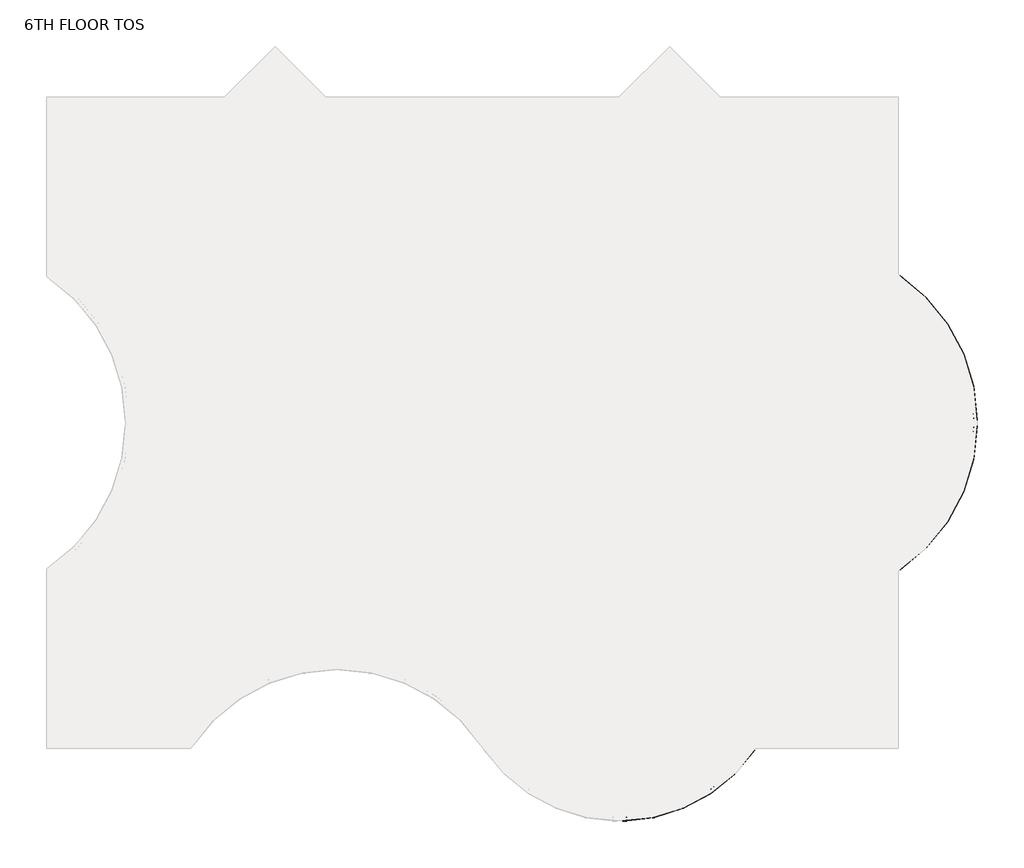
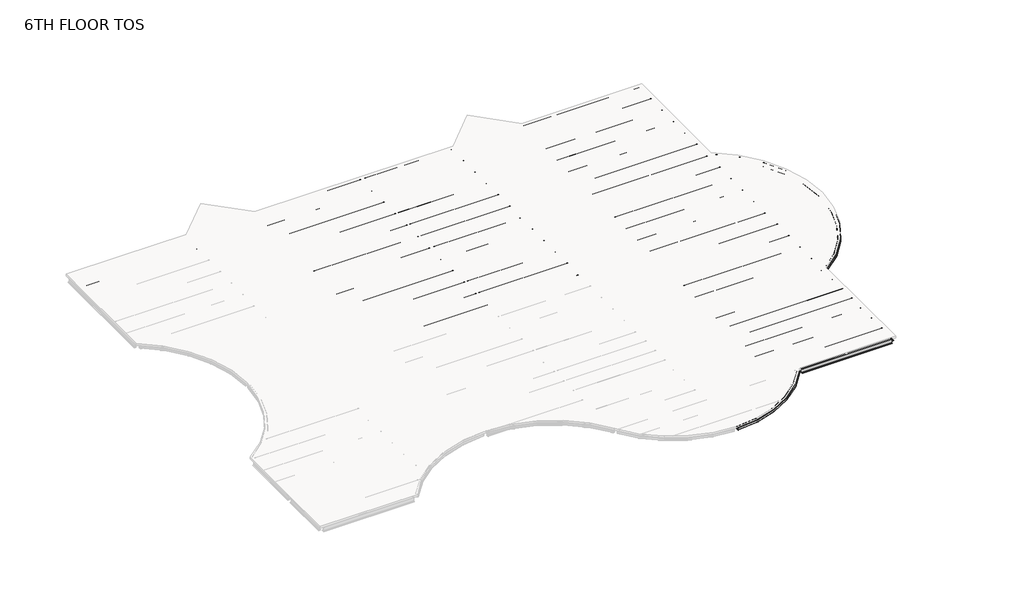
# One storey, part 2 of 2: 110 beams.
"""IFC4 building model written with IfcOpenShell, lengths in millimetres."""

from ifc_helpers import new_model, si_unit, origin, place, context, project, spatial, transform, mapped, element, save
from components import m_hss_square_hss203_2x203_2x9_5_28e91a4e, m_hss_square_hss203_2x203_2x9_5_f31329aa, m_hss_square_hss203_2x203_2x9_5_63507dff, ub_universal_beams_ub254x102x28_7812688d, ub_universal_beams_ub254x102x28_4a38c177, ub_universal_beams_ub305x165x40_c4d0385b, ub_universal_beams_ub305x165x40_19965e16, ub_universal_beams_ub305x165x40_d3abc31d, ub_universal_beams_ub305x165x40_0c73730f, ub_universal_beams_ub305x165x40_2a963f0c, ub_universal_beams_ub305x165x40_9ce7f2ee, ub_universal_beams_ub305x165x40_d184adfd, ub_universal_beams_ub305x165x40_bc7dc938, ub_universal_beams_ub305x165x40_b4233d25, ub_universal_beams_ub356x171x51_c708c058, ub_universal_beams_ub356x171x51_ef72dcdd, ub_universal_beams_ub356x171x51_10b3c54f, ub_universal_beams_ub356x171x51_4c9fd821, ub_universal_beams_ub356x171x51_d1a87c3c, ub_universal_beams_ub356x171x51_fa75724b, ub_universal_beams_ub356x171x51_68db896e, ub_universal_beams_ub356x171x51_c634c4a6, ub_universal_beams_ub356x171x51_995f1560, ub_universal_beams_ub356x171x51_dfc36663, ub_universal_beams_ub356x171x51_11d6b780, ub_universal_beams_ub356x171x51_76b2d20b, ub_universal_beams_ub356x171x51_145ecd4b, ub_universal_beams_ub356x171x51_c7dff8d2, ub_universal_beams_ub356x171x51_8a345439, ub_universal_beams_ub356x171x51_6da510e9, ub_universal_beams_ub356x171x51_e97f8d2e, ub_universal_beams_ub356x171x51_a38b99de, ub_universal_beams_ub356x171x51_d8f4cdde, ub_universal_beams_ub356x171x51_475301e6, ub_universal_beams_ub356x171x51_c03c70fb, ub_universal_beams_ub356x171x51_741bae58

model = new_model("IFC4")

# Units and contexts
model_context = context("Model", 3, world=origin())
ifc_project = project(units=[si_unit("LENGTHUNIT", "METRE", prefix="MILLI")], contexts=[model_context])

# Site, building, storey
site = spatial("IfcSite", under=ifc_project)
building = spatial("IfcBuilding", under=site)
storey = spatial("IfcBuildingStorey", under=building, Name="6TH FLOOR TOS", Elevation=27279.6)

# Beams
placement = place(None, origin())
m_hss_square_hss203_2x203_2x9_5_shape = m_hss_square_hss203_2x203_2x9_5_28e91a4e(model_context)
element("IfcBeam", 1, ObjectType="M_HSS Square : HSS203.2X203.2X9.5", at=placement, inside=storey, context=model_context, shape_type="MappedRepresentation", body=[
    mapped(m_hss_square_hss203_2x203_2x9_5_shape, transform((44027.575, 24539.575, 27178.1), x_axis=(0.8332810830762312, -0.5528495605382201, 0.0), y_axis=(0.5528495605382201, 0.8332810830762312, 0.0), z_axis=(0.0, 0.0, 1.0))),
])
m_hss_square_hss203_2x203_2x9_5_2_shape = m_hss_square_hss203_2x203_2x9_5_f31329aa(model_context)
element("IfcBeam", 2, ObjectType="M_HSS Square : HSS203.2X203.2X9.5", at=placement, inside=storey, context=model_context, shape_type="MappedRepresentation", body=[
    mapped(m_hss_square_hss203_2x203_2x9_5_2_shape, transform((44027.575, 9299.575, 27178.1), x_axis=(0.8332810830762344, 0.5528495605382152, 0.0), y_axis=(-0.5528495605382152, 0.8332810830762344, 0.0), z_axis=(0.0, 0.0, 1.0))),
])
m_hss_square_hss203_2x203_2x9_5_3_shape = m_hss_square_hss203_2x203_2x9_5_63507dff(model_context)
element("IfcBeam", 3, ObjectType="M_HSS Square : HSS203.2X203.2X9.5", at=placement, inside=storey, context=model_context, shape_type="MappedRepresentation", body=[
    mapped(m_hss_square_hss203_2x203_2x9_5_3_shape, transform((36716.575, 155.575, 27178.1), x_axis=(-0.5530174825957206, -0.8331696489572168, 0.0), y_axis=(0.8331696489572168, -0.5530174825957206, 0.0), z_axis=(0.0, 0.0, 1.0))),
])
ub_universal_beams_ub254x102x28_shape = ub_universal_beams_ub254x102x28_7812688d(model_context)
element("IfcBeam", 4, ObjectType="UB-Universal Beams : UB254x102x28", at=placement, inside=storey, context=model_context, shape_type="MappedRepresentation", body=[
    mapped(ub_universal_beams_ub254x102x28_shape, transform((10592.575, 34976.575, 27149.4), x_axis=(0.7071067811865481, 0.7071067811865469, 0.0), y_axis=(-0.7071067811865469, 0.7071067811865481, 0.0), z_axis=(0.0, 0.0, 1.0))),
])
element("IfcBeam", 5, ObjectType="UB-Universal Beams : UB254x102x28", at=placement, inside=storey, context=model_context, shape_type="MappedRepresentation", body=[
    mapped(ub_universal_beams_ub254x102x28_shape, transform((31004.575, 34976.575, 27149.4), x_axis=(0.7071067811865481, 0.7071067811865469, 0.0), y_axis=(-0.7071067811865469, 0.7071067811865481, 0.0), z_axis=(0.0, 0.0, 1.0))),
])
ub_universal_beams_ub254x102x28_2_shape = ub_universal_beams_ub254x102x28_4a38c177(model_context)
element("IfcBeam", 6, ObjectType="UB-Universal Beams : UB254x102x28", at=placement, inside=storey, context=model_context, shape_type="MappedRepresentation", body=[
    mapped(ub_universal_beams_ub254x102x28_2_shape, transform((13178.575, 34976.575, 27149.4), x_axis=(0.707106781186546, -0.707106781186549, 0.0), y_axis=(0.707106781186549, 0.707106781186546, 0.0), z_axis=(0.0, 0.0, 1.0))),
])
element("IfcBeam", 7, ObjectType="UB-Universal Beams : UB254x102x28", at=placement, inside=storey, context=model_context, shape_type="MappedRepresentation", body=[
    mapped(ub_universal_beams_ub254x102x28_2_shape, transform((33590.575, 34976.575, 27149.4), x_axis=(0.7071067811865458, -0.7071067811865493, 0.0), y_axis=(0.7071067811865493, 0.7071067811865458, 0.0), z_axis=(0.0, 0.0, 1.0))),
])
ub_universal_beams_ub305x165x40_shape = ub_universal_beams_ub305x165x40_c4d0385b(model_context)
element("IfcBeam", 8, ObjectType="UB-Universal Beams : UB305x165x40", at=placement, inside=storey, context=model_context, shape_type="MappedRepresentation", body=[
    mapped(ub_universal_beams_ub305x165x40_shape, transform((4727.575, 32159.575, 27127.9), x_axis=(1.0, 0.0, 0.0), y_axis=(0.0, 1.0, 0.0), z_axis=(0.0, 0.0, 1.0))),
])
element("IfcBeam", 9, ObjectType="UB-Universal Beams : UB305x165x40", at=placement, inside=storey, context=model_context, shape_type="MappedRepresentation", body=[
    mapped(ub_universal_beams_ub305x165x40_shape, transform((39455.575, 32159.575, 27127.9), x_axis=(1.0, 0.0, 0.0), y_axis=(0.0, 1.0, 0.0), z_axis=(0.0, 0.0, 1.0))),
])
element("IfcBeam", 10, ObjectType="UB-Universal Beams : UB305x165x40", at=placement, inside=storey, context=model_context, shape_type="MappedRepresentation", body=[
    mapped(ub_universal_beams_ub305x165x40_shape, transform((39455.575, 30635.575, 27127.9), x_axis=(1.0, 0.0, 0.0), y_axis=(0.0, 1.0, 0.0), z_axis=(0.0, 0.0, 1.0))),
])
element("IfcBeam", 11, ObjectType="UB-Universal Beams : UB305x165x40", at=placement, inside=storey, context=model_context, shape_type="MappedRepresentation", body=[
    mapped(ub_universal_beams_ub305x165x40_shape, transform((39455.575, 29111.575, 27127.9), x_axis=(1.0, 0.0, 0.0), y_axis=(0.0, 1.0, 0.0), z_axis=(0.0, 0.0, 1.0))),
])
element("IfcBeam", 12, ObjectType="UB-Universal Beams : UB305x165x40", at=placement, inside=storey, context=model_context, shape_type="MappedRepresentation", body=[
    mapped(ub_universal_beams_ub305x165x40_shape, transform((39455.575, 27587.575, 27127.9), x_axis=(1.0, 0.0, 0.0), y_axis=(0.0, 1.0, 0.0), z_axis=(0.0, 0.0, 1.0))),
])
element("IfcBeam", 13, ObjectType="UB-Universal Beams : UB305x165x40", at=placement, inside=storey, context=model_context, shape_type="MappedRepresentation", body=[
    mapped(ub_universal_beams_ub305x165x40_shape, transform((39455.575, 26063.575, 27127.9), x_axis=(1.0, 0.0, 0.0), y_axis=(0.0, 1.0, 0.0), z_axis=(0.0, 0.0, 1.0))),
])
element("IfcBeam", 14, ObjectType="UB-Universal Beams : UB305x165x40", at=placement, inside=storey, context=model_context, shape_type="MappedRepresentation", body=[
    mapped(ub_universal_beams_ub305x165x40_shape, transform((39455.575, 23015.575, 27127.9), x_axis=(1.0, 0.0, 0.0), y_axis=(0.0, 1.0, 0.0), z_axis=(0.0, 0.0, 1.0))),
])
element("IfcBeam", 15, ObjectType="UB-Universal Beams : UB305x165x40", at=placement, inside=storey, context=model_context, shape_type="MappedRepresentation", body=[
    mapped(ub_universal_beams_ub305x165x40_shape, transform((39455.575, 21491.575, 27127.9), x_axis=(1.0, 0.0, 0.0), y_axis=(0.0, 1.0, 0.0), z_axis=(0.0, 0.0, 1.0))),
])
element("IfcBeam", 16, ObjectType="UB-Universal Beams : UB305x165x40", at=placement, inside=storey, context=model_context, shape_type="MappedRepresentation", body=[
    mapped(ub_universal_beams_ub305x165x40_shape, transform((39455.575, 19967.575, 27127.9), x_axis=(1.0, 0.0, 0.0), y_axis=(0.0, 1.0, 0.0), z_axis=(0.0, 0.0, 1.0))),
])
element("IfcBeam", 17, ObjectType="UB-Universal Beams : UB305x165x40", at=placement, inside=storey, context=model_context, shape_type="MappedRepresentation", body=[
    mapped(ub_universal_beams_ub305x165x40_shape, transform((39455.575, 18443.575, 27127.9), x_axis=(1.0, 0.0, 0.0), y_axis=(0.0, 1.0, 0.0), z_axis=(0.0, 0.0, 1.0))),
])
element("IfcBeam", 18, ObjectType="UB-Universal Beams : UB305x165x40", at=placement, inside=storey, context=model_context, shape_type="MappedRepresentation", body=[
    mapped(ub_universal_beams_ub305x165x40_shape, transform((39455.575, 15395.575, 27127.9), x_axis=(1.0, 0.0, 0.0), y_axis=(0.0, 1.0, 0.0), z_axis=(0.0, 0.0, 1.0))),
])
element("IfcBeam", 19, ObjectType="UB-Universal Beams : UB305x165x40", at=placement, inside=storey, context=model_context, shape_type="MappedRepresentation", body=[
    mapped(ub_universal_beams_ub305x165x40_shape, transform((39455.575, 13871.575, 27127.9), x_axis=(1.0, 0.0, 0.0), y_axis=(0.0, 1.0, 0.0), z_axis=(0.0, 0.0, 1.0))),
])
element("IfcBeam", 20, ObjectType="UB-Universal Beams : UB305x165x40", at=placement, inside=storey, context=model_context, shape_type="MappedRepresentation", body=[
    mapped(ub_universal_beams_ub305x165x40_shape, transform((39455.575, 12347.575, 27127.9), x_axis=(1.0, 0.0, 0.0), y_axis=(0.0, 1.0, 0.0), z_axis=(0.0, 0.0, 1.0))),
])
element("IfcBeam", 21, ObjectType="UB-Universal Beams : UB305x165x40", at=placement, inside=storey, context=model_context, shape_type="MappedRepresentation", body=[
    mapped(ub_universal_beams_ub305x165x40_shape, transform((39455.575, 10823.575, 27127.9), x_axis=(1.0, 0.0, 0.0), y_axis=(0.0, 1.0, 0.0), z_axis=(0.0, 0.0, 1.0))),
])
element("IfcBeam", 22, ObjectType="UB-Universal Beams : UB305x165x40", at=placement, inside=storey, context=model_context, shape_type="MappedRepresentation", body=[
    mapped(ub_universal_beams_ub305x165x40_shape, transform((39455.575, 5508.325, 27127.9), x_axis=(-1.0, 0.0, 0.0), y_axis=(0.0, -1.0, 0.0), z_axis=(0.0, 0.0, 1.0))),
])
element("IfcBeam", 23, ObjectType="UB-Universal Beams : UB305x165x40", at=placement, inside=storey, context=model_context, shape_type="MappedRepresentation", body=[
    mapped(ub_universal_beams_ub305x165x40_shape, transform((39455.575, 6772.075, 27127.9), x_axis=(-1.0, 0.0, 0.0), y_axis=(0.0, -1.0, 0.0), z_axis=(0.0, 0.0, 1.0))),
])
element("IfcBeam", 24, ObjectType="UB-Universal Beams : UB305x165x40", at=placement, inside=storey, context=model_context, shape_type="MappedRepresentation", body=[
    mapped(ub_universal_beams_ub305x165x40_shape, transform((39455.575, 8035.825, 27127.9), x_axis=(-1.0, 0.0, 0.0), y_axis=(0.0, -1.0, 0.0), z_axis=(0.0, 0.0, 1.0))),
])
element("IfcBeam", 25, ObjectType="UB-Universal Beams : UB305x165x40", at=placement, inside=storey, context=model_context, shape_type="MappedRepresentation", body=[
    mapped(ub_universal_beams_ub305x165x40_shape, transform((39455.575, 1518.575, 27127.9), x_axis=(-1.0, 0.0, 0.0), y_axis=(0.0, -1.0, 0.0), z_axis=(0.0, 0.0, 1.0))),
])
element("IfcBeam", 26, ObjectType="UB-Universal Beams : UB305x165x40", at=placement, inside=storey, context=model_context, shape_type="MappedRepresentation", body=[
    mapped(ub_universal_beams_ub305x165x40_shape, transform((39455.575, 2881.575, 27127.9), x_axis=(-1.0, 0.0, 0.0), y_axis=(0.0, -1.0, 0.0), z_axis=(0.0, 0.0, 1.0))),
])
ub_universal_beams_ub305x165x40_2_shape = ub_universal_beams_ub305x165x40_19965e16(model_context)
element("IfcBeam", 27, ObjectType="UB-Universal Beams : UB305x165x40", at=placement, inside=storey, context=model_context, shape_type="MappedRepresentation", body=[
    mapped(ub_universal_beams_ub305x165x40_2_shape, transform((11885.575, 34803.325, 27127.9), x_axis=(1.0, 0.0, 0.0), y_axis=(0.0, 1.0, 0.0), z_axis=(0.0, 0.0, 1.0))),
])
element("IfcBeam", 28, ObjectType="UB-Universal Beams : UB305x165x40", at=placement, inside=storey, context=model_context, shape_type="MappedRepresentation", body=[
    mapped(ub_universal_beams_ub305x165x40_2_shape, transform((32297.575, 34803.325, 27127.9), x_axis=(1.0, 0.0, 0.0), y_axis=(0.0, 1.0, 0.0), z_axis=(0.0, 0.0, 1.0))),
])
ub_universal_beams_ub305x165x40_3_shape = ub_universal_beams_ub305x165x40_d3abc31d(model_context)
element("IfcBeam", 29, ObjectType="UB-Universal Beams : UB305x165x40", at=placement, inside=storey, context=model_context, shape_type="MappedRepresentation", body=[
    mapped(ub_universal_beams_ub305x165x40_3_shape, transform((11885.575, 33337.075, 27127.9), x_axis=(1.0, 0.0, 0.0), y_axis=(0.0, 1.0, 0.0), z_axis=(0.0, 0.0, 1.0))),
])
element("IfcBeam", 30, ObjectType="UB-Universal Beams : UB305x165x40", at=placement, inside=storey, context=model_context, shape_type="MappedRepresentation", body=[
    mapped(ub_universal_beams_ub305x165x40_3_shape, transform((11885.575, 31870.825, 27127.9), x_axis=(1.0, 0.0, 0.0), y_axis=(0.0, 1.0, 0.0), z_axis=(0.0, 0.0, 1.0))),
])
element("IfcBeam", 31, ObjectType="UB-Universal Beams : UB305x165x40", at=placement, inside=storey, context=model_context, shape_type="MappedRepresentation", body=[
    mapped(ub_universal_beams_ub305x165x40_3_shape, transform((11885.575, 30404.575, 27127.9), x_axis=(1.0, 0.0, 0.0), y_axis=(0.0, 1.0, 0.0), z_axis=(0.0, 0.0, 1.0))),
])
element("IfcBeam", 32, ObjectType="UB-Universal Beams : UB305x165x40", at=placement, inside=storey, context=model_context, shape_type="MappedRepresentation", body=[
    mapped(ub_universal_beams_ub305x165x40_3_shape, transform((32297.575, 33337.075, 27127.9), x_axis=(1.0, 0.0, 0.0), y_axis=(0.0, 1.0, 0.0), z_axis=(0.0, 0.0, 1.0))),
])
element("IfcBeam", 33, ObjectType="UB-Universal Beams : UB305x165x40", at=placement, inside=storey, context=model_context, shape_type="MappedRepresentation", body=[
    mapped(ub_universal_beams_ub305x165x40_3_shape, transform((32297.575, 31870.825, 27127.9), x_axis=(1.0, 0.0, 0.0), y_axis=(0.0, 1.0, 0.0), z_axis=(0.0, 0.0, 1.0))),
])
element("IfcBeam", 34, ObjectType="UB-Universal Beams : UB305x165x40", at=placement, inside=storey, context=model_context, shape_type="MappedRepresentation", body=[
    mapped(ub_universal_beams_ub305x165x40_3_shape, transform((32297.575, 30404.575, 27127.9), x_axis=(1.0, 0.0, 0.0), y_axis=(0.0, 1.0, 0.0), z_axis=(0.0, 0.0, 1.0))),
])
element("IfcBeam", 35, ObjectType="UB-Universal Beams : UB305x165x40", at=placement, inside=storey, context=model_context, shape_type="MappedRepresentation", body=[
    mapped(ub_universal_beams_ub305x165x40_3_shape, transform((32297.575, 28938.325, 27127.9), x_axis=(1.0, 0.0, 0.0), y_axis=(0.0, 1.0, 0.0), z_axis=(0.0, 0.0, 1.0))),
])
element("IfcBeam", 36, ObjectType="UB-Universal Beams : UB305x165x40", at=placement, inside=storey, context=model_context, shape_type="MappedRepresentation", body=[
    mapped(ub_universal_beams_ub305x165x40_3_shape, transform((32297.575, 27472.075, 27127.9), x_axis=(1.0, 0.0, 0.0), y_axis=(0.0, 1.0, 0.0), z_axis=(0.0, 0.0, 1.0))),
])
element("IfcBeam", 37, ObjectType="UB-Universal Beams : UB305x165x40", at=placement, inside=storey, context=model_context, shape_type="MappedRepresentation", body=[
    mapped(ub_universal_beams_ub305x165x40_3_shape, transform((32297.575, 26005.825, 27127.9), x_axis=(1.0, 0.0, 0.0), y_axis=(0.0, 1.0, 0.0), z_axis=(0.0, 0.0, 1.0))),
])
element("IfcBeam", 38, ObjectType="UB-Universal Beams : UB305x165x40", at=placement, inside=storey, context=model_context, shape_type="MappedRepresentation", body=[
    mapped(ub_universal_beams_ub305x165x40_3_shape, transform((32297.575, 1518.575, 27127.9), x_axis=(-1.0, 0.0, 0.0), y_axis=(0.0, -1.0, 0.0), z_axis=(0.0, 0.0, 1.0))),
])
element("IfcBeam", 39, ObjectType="UB-Universal Beams : UB305x165x40", at=placement, inside=storey, context=model_context, shape_type="MappedRepresentation", body=[
    mapped(ub_universal_beams_ub305x165x40_3_shape, transform((32297.575, 2881.575, 27127.9), x_axis=(-1.0, 0.0, 0.0), y_axis=(0.0, -1.0, 0.0), z_axis=(0.0, 0.0, 1.0))),
])
element("IfcBeam", 40, ObjectType="UB-Universal Beams : UB305x165x40", at=placement, inside=storey, context=model_context, shape_type="MappedRepresentation", body=[
    mapped(ub_universal_beams_ub305x165x40_3_shape, transform((32297.575, 5508.325, 27127.9), x_axis=(-1.0, 0.0, 0.0), y_axis=(0.0, -1.0, 0.0), z_axis=(0.0, 0.0, 1.0))),
])
element("IfcBeam", 41, ObjectType="UB-Universal Beams : UB305x165x40", at=placement, inside=storey, context=model_context, shape_type="MappedRepresentation", body=[
    mapped(ub_universal_beams_ub305x165x40_3_shape, transform((32297.575, 6772.075, 27127.9), x_axis=(-1.0, 0.0, 0.0), y_axis=(0.0, -1.0, 0.0), z_axis=(0.0, 0.0, 1.0))),
])
element("IfcBeam", 42, ObjectType="UB-Universal Beams : UB305x165x40", at=placement, inside=storey, context=model_context, shape_type="MappedRepresentation", body=[
    mapped(ub_universal_beams_ub305x165x40_3_shape, transform((32297.575, 8035.825, 27127.9), x_axis=(-1.0, 0.0, 0.0), y_axis=(0.0, -1.0, 0.0), z_axis=(0.0, 0.0, 1.0))),
])
element("IfcBeam", 43, ObjectType="UB-Universal Beams : UB305x165x40", at=placement, inside=storey, context=model_context, shape_type="MappedRepresentation", body=[
    mapped(ub_universal_beams_ub305x165x40_3_shape, transform((32297.575, 15395.575, 27127.9), x_axis=(1.0, 0.0, 0.0), y_axis=(0.0, 1.0, 0.0), z_axis=(0.0, 0.0, 1.0))),
])
element("IfcBeam", 44, ObjectType="UB-Universal Beams : UB305x165x40", at=placement, inside=storey, context=model_context, shape_type="MappedRepresentation", body=[
    mapped(ub_universal_beams_ub305x165x40_3_shape, transform((32297.575, 13871.575, 27127.9), x_axis=(1.0, 0.0, 0.0), y_axis=(0.0, 1.0, 0.0), z_axis=(0.0, 0.0, 1.0))),
])
element("IfcBeam", 45, ObjectType="UB-Universal Beams : UB305x165x40", at=placement, inside=storey, context=model_context, shape_type="MappedRepresentation", body=[
    mapped(ub_universal_beams_ub305x165x40_3_shape, transform((32297.575, 12347.575, 27127.9), x_axis=(1.0, 0.0, 0.0), y_axis=(0.0, 1.0, 0.0), z_axis=(0.0, 0.0, 1.0))),
])
element("IfcBeam", 46, ObjectType="UB-Universal Beams : UB305x165x40", at=placement, inside=storey, context=model_context, shape_type="MappedRepresentation", body=[
    mapped(ub_universal_beams_ub305x165x40_3_shape, transform((32297.575, 10823.575, 27127.9), x_axis=(1.0, 0.0, 0.0), y_axis=(0.0, 1.0, 0.0), z_axis=(0.0, 0.0, 1.0))),
])
element("IfcBeam", 47, ObjectType="UB-Universal Beams : UB305x165x40", at=placement, inside=storey, context=model_context, shape_type="MappedRepresentation", body=[
    mapped(ub_universal_beams_ub305x165x40_3_shape, transform((32297.575, 23015.575, 27127.9), x_axis=(1.0, 0.0, 0.0), y_axis=(0.0, 1.0, 0.0), z_axis=(0.0, 0.0, 1.0))),
])
element("IfcBeam", 48, ObjectType="UB-Universal Beams : UB305x165x40", at=placement, inside=storey, context=model_context, shape_type="MappedRepresentation", body=[
    mapped(ub_universal_beams_ub305x165x40_3_shape, transform((32297.575, 21491.575, 27127.9), x_axis=(1.0, 0.0, 0.0), y_axis=(0.0, 1.0, 0.0), z_axis=(0.0, 0.0, 1.0))),
])
element("IfcBeam", 49, ObjectType="UB-Universal Beams : UB305x165x40", at=placement, inside=storey, context=model_context, shape_type="MappedRepresentation", body=[
    mapped(ub_universal_beams_ub305x165x40_3_shape, transform((32297.575, 19967.575, 27127.9), x_axis=(1.0, 0.0, 0.0), y_axis=(0.0, 1.0, 0.0), z_axis=(0.0, 0.0, 1.0))),
])
element("IfcBeam", 50, ObjectType="UB-Universal Beams : UB305x165x40", at=placement, inside=storey, context=model_context, shape_type="MappedRepresentation", body=[
    mapped(ub_universal_beams_ub305x165x40_3_shape, transform((32297.575, 18443.575, 27127.9), x_axis=(1.0, 0.0, 0.0), y_axis=(0.0, 1.0, 0.0), z_axis=(0.0, 0.0, 1.0))),
])
ub_universal_beams_ub305x165x40_4_shape = ub_universal_beams_ub305x165x40_0c73730f(model_context)
element("IfcBeam", 51, ObjectType="UB-Universal Beams : UB305x165x40", at=placement, inside=storey, context=model_context, shape_type="MappedRepresentation", body=[
    mapped(ub_universal_beams_ub305x165x40_4_shape, transform((18591.075, 32159.575, 27127.9), x_axis=(1.0, 0.0, 0.0), y_axis=(0.0, 1.0, 0.0), z_axis=(0.0, 0.0, 1.0))),
])
element("IfcBeam", 52, ObjectType="UB-Universal Beams : UB305x165x40", at=placement, inside=storey, context=model_context, shape_type="MappedRepresentation", body=[
    mapped(ub_universal_beams_ub305x165x40_4_shape, transform((18591.075, 30635.575, 27127.9), x_axis=(1.0, 0.0, 0.0), y_axis=(0.0, 1.0, 0.0), z_axis=(0.0, 0.0, 1.0))),
])
element("IfcBeam", 53, ObjectType="UB-Universal Beams : UB305x165x40", at=placement, inside=storey, context=model_context, shape_type="MappedRepresentation", body=[
    mapped(ub_universal_beams_ub305x165x40_4_shape, transform((18591.075, 29111.575, 27127.9), x_axis=(1.0, 0.0, 0.0), y_axis=(0.0, 1.0, 0.0), z_axis=(0.0, 0.0, 1.0))),
])
element("IfcBeam", 54, ObjectType="UB-Universal Beams : UB305x165x40", at=placement, inside=storey, context=model_context, shape_type="MappedRepresentation", body=[
    mapped(ub_universal_beams_ub305x165x40_4_shape, transform((18591.075, 27587.575, 27127.9), x_axis=(1.0, 0.0, 0.0), y_axis=(0.0, 1.0, 0.0), z_axis=(0.0, 0.0, 1.0))),
])
element("IfcBeam", 55, ObjectType="UB-Universal Beams : UB305x165x40", at=placement, inside=storey, context=model_context, shape_type="MappedRepresentation", body=[
    mapped(ub_universal_beams_ub305x165x40_4_shape, transform((18591.075, 26063.575, 27127.9), x_axis=(1.0, 0.0, 0.0), y_axis=(0.0, 1.0, 0.0), z_axis=(0.0, 0.0, 1.0))),
])
element("IfcBeam", 56, ObjectType="UB-Universal Beams : UB305x165x40", at=placement, inside=storey, context=model_context, shape_type="MappedRepresentation", body=[
    mapped(ub_universal_beams_ub305x165x40_4_shape, transform((18591.075, 23015.575, 27127.9), x_axis=(1.0, 0.0, 0.0), y_axis=(0.0, 1.0, 0.0), z_axis=(0.0, 0.0, 1.0))),
])
element("IfcBeam", 57, ObjectType="UB-Universal Beams : UB305x165x40", at=placement, inside=storey, context=model_context, shape_type="MappedRepresentation", body=[
    mapped(ub_universal_beams_ub305x165x40_4_shape, transform((18591.075, 21491.575, 27127.9), x_axis=(1.0, 0.0, 0.0), y_axis=(0.0, 1.0, 0.0), z_axis=(0.0, 0.0, 1.0))),
])
element("IfcBeam", 58, ObjectType="UB-Universal Beams : UB305x165x40", at=placement, inside=storey, context=model_context, shape_type="MappedRepresentation", body=[
    mapped(ub_universal_beams_ub305x165x40_4_shape, transform((18591.075, 19967.575, 27127.9), x_axis=(1.0, 0.0, 0.0), y_axis=(0.0, 1.0, 0.0), z_axis=(0.0, 0.0, 1.0))),
])
element("IfcBeam", 59, ObjectType="UB-Universal Beams : UB305x165x40", at=placement, inside=storey, context=model_context, shape_type="MappedRepresentation", body=[
    mapped(ub_universal_beams_ub305x165x40_4_shape, transform((18591.075, 18443.575, 27127.9), x_axis=(1.0, 0.0, 0.0), y_axis=(0.0, 1.0, 0.0), z_axis=(0.0, 0.0, 1.0))),
])
ub_universal_beams_ub305x165x40_5_shape = ub_universal_beams_ub305x165x40_2a963f0c(model_context)
element("IfcBeam", 60, ObjectType="UB-Universal Beams : UB305x165x40", at=placement, inside=storey, context=model_context, shape_type="MappedRepresentation", body=[
    mapped(ub_universal_beams_ub305x165x40_5_shape, transform((26211.075, 32159.575, 27127.9), x_axis=(1.0, 0.0, 0.0), y_axis=(0.0, 1.0, 0.0), z_axis=(0.0, 0.0, 1.0))),
])
element("IfcBeam", 61, ObjectType="UB-Universal Beams : UB305x165x40", at=placement, inside=storey, context=model_context, shape_type="MappedRepresentation", body=[
    mapped(ub_universal_beams_ub305x165x40_5_shape, transform((26211.075, 30635.575, 27127.9), x_axis=(1.0, 0.0, 0.0), y_axis=(0.0, 1.0, 0.0), z_axis=(0.0, 0.0, 1.0))),
])
element("IfcBeam", 62, ObjectType="UB-Universal Beams : UB305x165x40", at=placement, inside=storey, context=model_context, shape_type="MappedRepresentation", body=[
    mapped(ub_universal_beams_ub305x165x40_5_shape, transform((26211.075, 29111.575, 27127.9), x_axis=(1.0, 0.0, 0.0), y_axis=(0.0, 1.0, 0.0), z_axis=(0.0, 0.0, 1.0))),
])
element("IfcBeam", 63, ObjectType="UB-Universal Beams : UB305x165x40", at=placement, inside=storey, context=model_context, shape_type="MappedRepresentation", body=[
    mapped(ub_universal_beams_ub305x165x40_5_shape, transform((26211.075, 27587.575, 27127.9), x_axis=(1.0, 0.0, 0.0), y_axis=(0.0, 1.0, 0.0), z_axis=(0.0, 0.0, 1.0))),
])
element("IfcBeam", 64, ObjectType="UB-Universal Beams : UB305x165x40", at=placement, inside=storey, context=model_context, shape_type="MappedRepresentation", body=[
    mapped(ub_universal_beams_ub305x165x40_5_shape, transform((26211.075, 26063.575, 27127.9), x_axis=(1.0, 0.0, 0.0), y_axis=(0.0, 1.0, 0.0), z_axis=(0.0, 0.0, 1.0))),
])
element("IfcBeam", 65, ObjectType="UB-Universal Beams : UB305x165x40", at=placement, inside=storey, context=model_context, shape_type="MappedRepresentation", body=[
    mapped(ub_universal_beams_ub305x165x40_5_shape, transform((26211.075, 23015.575, 27127.9), x_axis=(1.0, 0.0, 0.0), y_axis=(0.0, 1.0, 0.0), z_axis=(0.0, 0.0, 1.0))),
])
element("IfcBeam", 66, ObjectType="UB-Universal Beams : UB305x165x40", at=placement, inside=storey, context=model_context, shape_type="MappedRepresentation", body=[
    mapped(ub_universal_beams_ub305x165x40_5_shape, transform((26211.075, 21491.575, 27127.9), x_axis=(1.0, 0.0, 0.0), y_axis=(0.0, 1.0, 0.0), z_axis=(0.0, 0.0, 1.0))),
])
element("IfcBeam", 67, ObjectType="UB-Universal Beams : UB305x165x40", at=placement, inside=storey, context=model_context, shape_type="MappedRepresentation", body=[
    mapped(ub_universal_beams_ub305x165x40_5_shape, transform((26211.075, 19967.575, 27127.9), x_axis=(1.0, 0.0, 0.0), y_axis=(0.0, 1.0, 0.0), z_axis=(0.0, 0.0, 1.0))),
])
element("IfcBeam", 68, ObjectType="UB-Universal Beams : UB305x165x40", at=placement, inside=storey, context=model_context, shape_type="MappedRepresentation", body=[
    mapped(ub_universal_beams_ub305x165x40_5_shape, transform((26211.075, 18443.575, 27127.9), x_axis=(1.0, 0.0, 0.0), y_axis=(0.0, 1.0, 0.0), z_axis=(0.0, 0.0, 1.0))),
])
ub_universal_beams_ub305x165x40_6_shape = ub_universal_beams_ub305x165x40_9ce7f2ee(model_context)
element("IfcBeam", 69, ObjectType="UB-Universal Beams : UB305x165x40", at=placement, inside=storey, context=model_context, shape_type="MappedRepresentation", body=[
    mapped(ub_universal_beams_ub305x165x40_6_shape, transform((44907.9405309, 23015.575, 27127.9), x_axis=(1.0, 0.0, 0.0), y_axis=(0.0, 1.0, 0.0), z_axis=(0.0, 0.0, 1.0))),
])
element("IfcBeam", 70, ObjectType="UB-Universal Beams : UB305x165x40", at=placement, inside=storey, context=model_context, shape_type="MappedRepresentation", body=[
    mapped(ub_universal_beams_ub305x165x40_6_shape, transform((44907.9405309, 10823.575, 27127.9), x_axis=(1.0, 0.0, 0.0), y_axis=(0.0, 1.0, 0.0), z_axis=(0.0, 0.0, 1.0))),
])
ub_universal_beams_ub305x165x40_7_shape = ub_universal_beams_ub305x165x40_d184adfd(model_context)
element("IfcBeam", 71, ObjectType="UB-Universal Beams : UB305x165x40", at=placement, inside=storey, context=model_context, shape_type="MappedRepresentation", body=[
    mapped(ub_universal_beams_ub305x165x40_7_shape, transform((45459.5874928, 21491.575, 27127.9), x_axis=(1.0, 0.0, 0.0), y_axis=(0.0, 1.0, 0.0), z_axis=(0.0, 0.0, 1.0))),
])
element("IfcBeam", 72, ObjectType="UB-Universal Beams : UB305x165x40", at=placement, inside=storey, context=model_context, shape_type="MappedRepresentation", body=[
    mapped(ub_universal_beams_ub305x165x40_7_shape, transform((45459.5874928, 12347.575, 27127.9), x_axis=(1.0, 0.0, 0.0), y_axis=(0.0, 1.0, 0.0), z_axis=(0.0, 0.0, 1.0))),
])
ub_universal_beams_ub305x165x40_8_shape = ub_universal_beams_ub305x165x40_bc7dc938(model_context)
element("IfcBeam", 73, ObjectType="UB-Universal Beams : UB305x165x40", at=placement, inside=storey, context=model_context, shape_type="MappedRepresentation", body=[
    mapped(ub_universal_beams_ub305x165x40_8_shape, transform((45810.6153272, 19967.575, 27127.9), x_axis=(1.0, 0.0, 0.0), y_axis=(0.0, 1.0, 0.0), z_axis=(0.0, 0.0, 1.0))),
])
element("IfcBeam", 74, ObjectType="UB-Universal Beams : UB305x165x40", at=placement, inside=storey, context=model_context, shape_type="MappedRepresentation", body=[
    mapped(ub_universal_beams_ub305x165x40_8_shape, transform((45810.6153272, 13871.575, 27127.9), x_axis=(1.0, 0.0, 0.0), y_axis=(0.0, 1.0, 0.0), z_axis=(0.0, 0.0, 1.0))),
])
ub_universal_beams_ub305x165x40_9_shape = ub_universal_beams_ub305x165x40_b4233d25(model_context)
element("IfcBeam", 75, ObjectType="UB-Universal Beams : UB305x165x40", at=placement, inside=storey, context=model_context, shape_type="MappedRepresentation", body=[
    mapped(ub_universal_beams_ub305x165x40_9_shape, transform((46008.1318611, 18443.575, 27127.9), x_axis=(1.0, 0.0, 0.0), y_axis=(0.0, 1.0, 0.0), z_axis=(0.0, 0.0, 1.0))),
])
element("IfcBeam", 76, ObjectType="UB-Universal Beams : UB305x165x40", at=placement, inside=storey, context=model_context, shape_type="MappedRepresentation", body=[
    mapped(ub_universal_beams_ub305x165x40_9_shape, transform((46008.1318611, 15395.575, 27127.9), x_axis=(1.0, 0.0, 0.0), y_axis=(0.0, 1.0, 0.0), z_axis=(0.0, 0.0, 1.0))),
])
ub_universal_beams_ub356x171x51_shape = ub_universal_beams_ub356x171x51_c708c058(model_context)
element("IfcBeam", 77, ObjectType="UB-Universal Beams : UB356x171x51", at=placement, inside=storey, context=model_context, shape_type="MappedRepresentation", body=[
    mapped(ub_universal_beams_ub356x171x51_shape, transform((2200.075, 33683.575, 27102.1), x_axis=(1.0, 0.0, 0.0), y_axis=(0.0, 1.0, 0.0), z_axis=(0.0, 0.0, 1.0))),
])
ub_universal_beams_ub356x171x51_2_shape = ub_universal_beams_ub356x171x51_ef72dcdd(model_context)
element("IfcBeam", 78, ObjectType="UB-Universal Beams : UB356x171x51", at=placement, inside=storey, context=model_context, shape_type="MappedRepresentation", body=[
    mapped(ub_universal_beams_ub356x171x51_2_shape, transform((6772.075, 33683.575, 27102.1), x_axis=(1.0, 0.0, 0.0), y_axis=(0.0, 1.0, 0.0), z_axis=(0.0, 0.0, 1.0))),
])
element("IfcBeam", 79, ObjectType="UB-Universal Beams : UB356x171x51", at=placement, inside=storey, context=model_context, shape_type="MappedRepresentation", body=[
    mapped(ub_universal_beams_ub356x171x51_2_shape, transform((34883.575, 6772.075, 27102.1), x_axis=(0.0, -1.0, 0.0), y_axis=(1.0, 0.0, 0.0), z_axis=(0.0, 0.0, 1.0))),
])
ub_universal_beams_ub356x171x51_3_shape = ub_universal_beams_ub356x171x51_10b3c54f(model_context)
element("IfcBeam", 80, ObjectType="UB-Universal Beams : UB356x171x51", at=placement, inside=storey, context=model_context, shape_type="MappedRepresentation", body=[
    mapped(ub_universal_beams_ub356x171x51_3_shape, transform((18591.075, 33683.575, 27102.1), x_axis=(1.0, 0.0, 0.0), y_axis=(0.0, 1.0, 0.0), z_axis=(0.0, 0.0, 1.0))),
])
ub_universal_beams_ub356x171x51_4_shape = ub_universal_beams_ub356x171x51_4c9fd821(model_context)
element("IfcBeam", 81, ObjectType="UB-Universal Beams : UB356x171x51", at=placement, inside=storey, context=model_context, shape_type="MappedRepresentation", body=[
    mapped(ub_universal_beams_ub356x171x51_4_shape, transform((26211.075, 33683.575, 27102.1), x_axis=(1.0, 0.0, 0.0), y_axis=(0.0, 1.0, 0.0), z_axis=(0.0, 0.0, 1.0))),
])
ub_universal_beams_ub356x171x51_5_shape = ub_universal_beams_ub356x171x51_d1a87c3c(model_context)
element("IfcBeam", 82, ObjectType="UB-Universal Beams : UB356x171x51", at=placement, inside=storey, context=model_context, shape_type="MappedRepresentation", body=[
    mapped(ub_universal_beams_ub356x171x51_5_shape, transform((39455.575, 33683.575, 27102.1), x_axis=(1.0, 0.0, 0.0), y_axis=(0.0, 1.0, 0.0), z_axis=(0.0, 0.0, 1.0))),
])
ub_universal_beams_ub356x171x51_6_shape = ub_universal_beams_ub356x171x51_fa75724b(model_context)
element("IfcBeam", 83, ObjectType="UB-Universal Beams : UB356x171x51", at=placement, inside=storey, context=model_context, shape_type="MappedRepresentation", body=[
    mapped(ub_universal_beams_ub356x171x51_6_shape, transform((44027.575, 29111.575, 27102.1), x_axis=(0.0, -1.0, 0.0), y_axis=(1.0, 0.0, 0.0), z_axis=(0.0, 0.0, 1.0))),
])
ub_universal_beams_ub356x171x51_7_shape = ub_universal_beams_ub356x171x51_68db896e(model_context)
element("IfcBeam", 84, ObjectType="UB-Universal Beams : UB356x171x51", at=placement, inside=storey, context=model_context, shape_type="MappedRepresentation", body=[
    mapped(ub_universal_beams_ub356x171x51_7_shape, transform((44027.575, 6772.075, 27102.1), x_axis=(0.0, -1.0, 0.0), y_axis=(1.0, 0.0, 0.0), z_axis=(0.0, 0.0, 1.0))),
])
ub_universal_beams_ub356x171x51_8_shape = ub_universal_beams_ub356x171x51_c634c4a6(model_context)
element("IfcBeam", 85, ObjectType="UB-Universal Beams : UB356x171x51", at=placement, inside=storey, context=model_context, shape_type="MappedRepresentation", body=[
    mapped(ub_universal_beams_ub356x171x51_8_shape, transform((44027.575, 2200.075, 27102.1), x_axis=(0.0, -1.0, 0.0), y_axis=(1.0, 0.0, 0.0), z_axis=(0.0, 0.0, 1.0))),
])
ub_universal_beams_ub356x171x51_9_shape = ub_universal_beams_ub356x171x51_995f1560(model_context)
element("IfcBeam", 86, ObjectType="UB-Universal Beams : UB356x171x51", at=placement, inside=storey, context=model_context, shape_type="MappedRepresentation", body=[
    mapped(ub_universal_beams_ub356x171x51_9_shape, transform((40372.075, 155.575, 27102.1), x_axis=(-1.0, 0.0, 0.0), y_axis=(0.0, -1.0, 0.0), z_axis=(0.0, 0.0, 1.0))),
])
ub_universal_beams_ub356x171x51_10_shape = ub_universal_beams_ub356x171x51_dfc36663(model_context)
element("IfcBeam", 87, ObjectType="UB-Universal Beams : UB356x171x51", at=placement, inside=storey, context=model_context, shape_type="MappedRepresentation", body=[
    mapped(ub_universal_beams_ub356x171x51_10_shape, transform((46072.075, 16919.575, 27102.1), x_axis=(1.0, 0.0, 0.0), y_axis=(0.0, 1.0, 0.0), z_axis=(0.0, 0.0, 1.0))),
])
ub_universal_beams_ub356x171x51_11_shape = ub_universal_beams_ub356x171x51_11d6b780(model_context)
element("IfcBeam", 88, ObjectType="UB-Universal Beams : UB356x171x51", at=placement, inside=storey, context=model_context, shape_type="MappedRepresentation", body=[
    mapped(ub_universal_beams_ub356x171x51_11_shape, transform((32297.575, 24539.575, 27102.1), x_axis=(1.0, 0.0, 0.0), y_axis=(0.0, 1.0, 0.0), z_axis=(0.0, 0.0, 1.0))),
])
element("IfcBeam", 89, ObjectType="UB-Universal Beams : UB356x171x51", at=placement, inside=storey, context=model_context, shape_type="MappedRepresentation", body=[
    mapped(ub_universal_beams_ub356x171x51_11_shape, transform((32297.575, 9299.575, 27102.1), x_axis=(-1.0, 0.0, 0.0), y_axis=(0.0, -1.0, 0.0), z_axis=(0.0, 0.0, 1.0))),
])
element("IfcBeam", 90, ObjectType="UB-Universal Beams : UB356x171x51", at=placement, inside=storey, context=model_context, shape_type="MappedRepresentation", body=[
    mapped(ub_universal_beams_ub356x171x51_11_shape, transform((32297.575, 16919.575, 27102.1), x_axis=(1.0, 0.0, 0.0), y_axis=(0.0, 1.0, 0.0), z_axis=(0.0, 0.0, 1.0))),
])
element("IfcBeam", 91, ObjectType="UB-Universal Beams : UB356x171x51", at=placement, inside=storey, context=model_context, shape_type="MappedRepresentation", body=[
    mapped(ub_universal_beams_ub356x171x51_11_shape, transform((32297.575, 4244.575, 27102.1), x_axis=(-1.0, 0.0, 0.0), y_axis=(0.0, -1.0, 0.0), z_axis=(0.0, 0.0, 1.0))),
])
ub_universal_beams_ub356x171x51_12_shape = ub_universal_beams_ub356x171x51_76b2d20b(model_context)
element("IfcBeam", 92, ObjectType="UB-Universal Beams : UB356x171x51", at=placement, inside=storey, context=model_context, shape_type="MappedRepresentation", body=[
    mapped(ub_universal_beams_ub356x171x51_12_shape, transform((18591.075, 24539.575, 27102.1), x_axis=(1.0, 0.0, 0.0), y_axis=(0.0, 1.0, 0.0), z_axis=(0.0, 0.0, 1.0))),
])
element("IfcBeam", 93, ObjectType="UB-Universal Beams : UB356x171x51", at=placement, inside=storey, context=model_context, shape_type="MappedRepresentation", body=[
    mapped(ub_universal_beams_ub356x171x51_12_shape, transform((18591.075, 16919.575, 27102.1), x_axis=(1.0, 0.0, 0.0), y_axis=(0.0, 1.0, 0.0), z_axis=(0.0, 0.0, 1.0))),
])
ub_universal_beams_ub356x171x51_13_shape = ub_universal_beams_ub356x171x51_145ecd4b(model_context)
element("IfcBeam", 94, ObjectType="UB-Universal Beams : UB356x171x51", at=placement, inside=storey, context=model_context, shape_type="MappedRepresentation", body=[
    mapped(ub_universal_beams_ub356x171x51_13_shape, transform((26211.075, 24539.575, 27102.1), x_axis=(1.0, 0.0, 0.0), y_axis=(0.0, 1.0, 0.0), z_axis=(0.0, 0.0, 1.0))),
])
element("IfcBeam", 95, ObjectType="UB-Universal Beams : UB356x171x51", at=placement, inside=storey, context=model_context, shape_type="MappedRepresentation", body=[
    mapped(ub_universal_beams_ub356x171x51_13_shape, transform((26211.075, 16919.575, 27102.1), x_axis=(1.0, 0.0, 0.0), y_axis=(0.0, 1.0, 0.0), z_axis=(0.0, 0.0, 1.0))),
])
ub_universal_beams_ub356x171x51_14_shape = ub_universal_beams_ub356x171x51_c7dff8d2(model_context)
element("IfcBeam", 96, ObjectType="UB-Universal Beams : UB356x171x51", at=placement, inside=storey, context=model_context, shape_type="MappedRepresentation", body=[
    mapped(ub_universal_beams_ub356x171x51_14_shape, transform((39455.575, 24539.575, 27102.1), x_axis=(1.0, 0.0, 0.0), y_axis=(0.0, 1.0, 0.0), z_axis=(0.0, 0.0, 1.0))),
])
ub_universal_beams_ub356x171x51_15_shape = ub_universal_beams_ub356x171x51_8a345439(model_context)
element("IfcBeam", 97, ObjectType="UB-Universal Beams : UB356x171x51", at=placement, inside=storey, context=model_context, shape_type="MappedRepresentation", body=[
    mapped(ub_universal_beams_ub356x171x51_15_shape, transform((44027.575, 20729.575, 27102.1), x_axis=(0.0, -1.0, 0.0), y_axis=(1.0, 0.0, 0.0), z_axis=(0.0, 0.0, 1.0))),
])
ub_universal_beams_ub356x171x51_16_shape = ub_universal_beams_ub356x171x51_6da510e9(model_context)
element("IfcBeam", 98, ObjectType="UB-Universal Beams : UB356x171x51", at=placement, inside=storey, context=model_context, shape_type="MappedRepresentation", body=[
    mapped(ub_universal_beams_ub356x171x51_16_shape, transform((44027.575, 13109.575, 27102.1), x_axis=(0.0, -1.0, 0.0), y_axis=(1.0, 0.0, 0.0), z_axis=(0.0, 0.0, 1.0))),
])
ub_universal_beams_ub356x171x51_17_shape = ub_universal_beams_ub356x171x51_e97f8d2e(model_context)
element("IfcBeam", 99, ObjectType="UB-Universal Beams : UB356x171x51", at=placement, inside=storey, context=model_context, shape_type="MappedRepresentation", body=[
    mapped(ub_universal_beams_ub356x171x51_17_shape, transform((39455.575, 9299.575, 27102.1), x_axis=(-1.0, 0.0, 0.0), y_axis=(0.0, -1.0, 0.0), z_axis=(0.0, 0.0, 1.0))),
])
ub_universal_beams_ub356x171x51_18_shape = ub_universal_beams_ub356x171x51_a38b99de(model_context)
element("IfcBeam", 100, ObjectType="UB-Universal Beams : UB356x171x51", at=placement, inside=storey, context=model_context, shape_type="MappedRepresentation", body=[
    mapped(ub_universal_beams_ub356x171x51_18_shape, transform((34883.575, 20729.575, 27102.1), x_axis=(0.0, -1.0, 0.0), y_axis=(1.0, 0.0, 0.0), z_axis=(0.0, 0.0, 1.0))),
])
element("IfcBeam", 101, ObjectType="UB-Universal Beams : UB356x171x51", at=placement, inside=storey, context=model_context, shape_type="MappedRepresentation", body=[
    mapped(ub_universal_beams_ub356x171x51_18_shape, transform((34883.575, 13109.575, 27102.1), x_axis=(0.0, -1.0, 0.0), y_axis=(1.0, 0.0, 0.0), z_axis=(0.0, 0.0, 1.0))),
])
element("IfcBeam", 102, ObjectType="UB-Universal Beams : UB356x171x51", at=placement, inside=storey, context=model_context, shape_type="MappedRepresentation", body=[
    mapped(ub_universal_beams_ub356x171x51_18_shape, transform((22710.575, 20729.575, 27102.1), x_axis=(0.0, -1.0, 0.0), y_axis=(1.0, 0.0, 0.0), z_axis=(0.0, 0.0, 1.0))),
])
element("IfcBeam", 103, ObjectType="UB-Universal Beams : UB356x171x51", at=placement, inside=storey, context=model_context, shape_type="MappedRepresentation", body=[
    mapped(ub_universal_beams_ub356x171x51_18_shape, transform((29711.575, 20729.575, 27102.1), x_axis=(0.0, 1.0, 0.0), y_axis=(-1.0, 0.0, 0.0), z_axis=(0.0, 0.0, 1.0))),
])
ub_universal_beams_ub356x171x51_19_shape = ub_universal_beams_ub356x171x51_d8f4cdde(model_context)
element("IfcBeam", 104, ObjectType="UB-Universal Beams : UB356x171x51", at=placement, inside=storey, context=model_context, shape_type="MappedRepresentation", body=[
    mapped(ub_universal_beams_ub356x171x51_19_shape, transform((29711.575, 29111.575, 27102.1), x_axis=(0.0, 1.0, 0.0), y_axis=(-1.0, 0.0, 0.0), z_axis=(0.0, 0.0, 1.0))),
])
ub_universal_beams_ub356x171x51_20_shape = ub_universal_beams_ub356x171x51_475301e6(model_context)
element("IfcBeam", 105, ObjectType="UB-Universal Beams : UB356x171x51", at=placement, inside=storey, context=model_context, shape_type="MappedRepresentation", body=[
    mapped(ub_universal_beams_ub356x171x51_20_shape, transform((39455.575, 16919.575, 27102.1), x_axis=(1.0, 0.0, 0.0), y_axis=(0.0, 1.0, 0.0), z_axis=(0.0, 0.0, 1.0))),
])
element("IfcBeam", 106, ObjectType="UB-Universal Beams : UB356x171x51", at=placement, inside=storey, context=model_context, shape_type="MappedRepresentation", body=[
    mapped(ub_universal_beams_ub356x171x51_20_shape, transform((39455.575, 4244.575, 27102.1), x_axis=(-1.0, 0.0, 0.0), y_axis=(0.0, -1.0, 0.0), z_axis=(0.0, 0.0, 1.0))),
])
ub_universal_beams_ub356x171x51_21_shape = ub_universal_beams_ub356x171x51_c03c70fb(model_context)
element("IfcBeam", 107, ObjectType="UB-Universal Beams : UB356x171x51", at=placement, inside=storey, context=model_context, shape_type="MappedRepresentation", body=[
    mapped(ub_universal_beams_ub356x171x51_21_shape, transform((34883.575, 29111.575, 27102.1), x_axis=(0.0, -1.0, 0.0), y_axis=(1.0, 0.0, 0.0), z_axis=(0.0, 0.0, 1.0))),
])
element("IfcBeam", 108, ObjectType="UB-Universal Beams : UB356x171x51", at=placement, inside=storey, context=model_context, shape_type="MappedRepresentation", body=[
    mapped(ub_universal_beams_ub356x171x51_21_shape, transform((14471.575, 29111.575, 27102.1), x_axis=(0.0, -1.0, 0.0), y_axis=(1.0, 0.0, 0.0), z_axis=(0.0, 0.0, 1.0))),
])
element("IfcBeam", 109, ObjectType="UB-Universal Beams : UB356x171x51", at=placement, inside=storey, context=model_context, shape_type="MappedRepresentation", body=[
    mapped(ub_universal_beams_ub356x171x51_21_shape, transform((22710.575, 29111.575, 27102.1), x_axis=(0.0, -1.0, 0.0), y_axis=(1.0, 0.0, 0.0), z_axis=(0.0, 0.0, 1.0))),
])
ub_universal_beams_ub356x171x51_22_shape = ub_universal_beams_ub356x171x51_741bae58(model_context)
element("IfcBeam", 110, ObjectType="UB-Universal Beams : UB356x171x51", at=placement, inside=storey, context=model_context, shape_type="MappedRepresentation", body=[
    mapped(ub_universal_beams_ub356x171x51_22_shape, transform((34883.575, 2200.075, 27102.1), x_axis=(0.0, -1.0, 0.0), y_axis=(1.0, 0.0, 0.0), z_axis=(0.0, 0.0, 1.0))),
])

save(model, "model.ifc")
